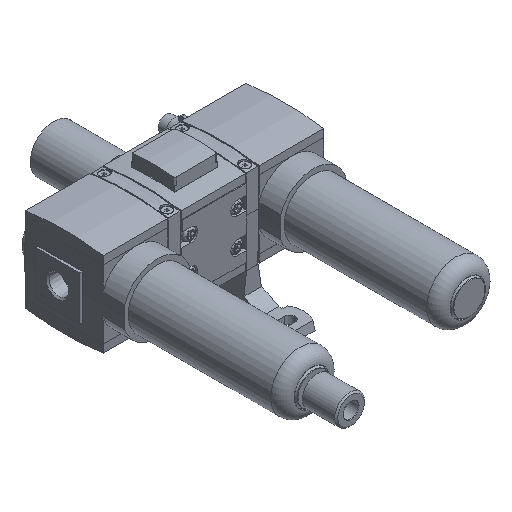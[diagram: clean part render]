
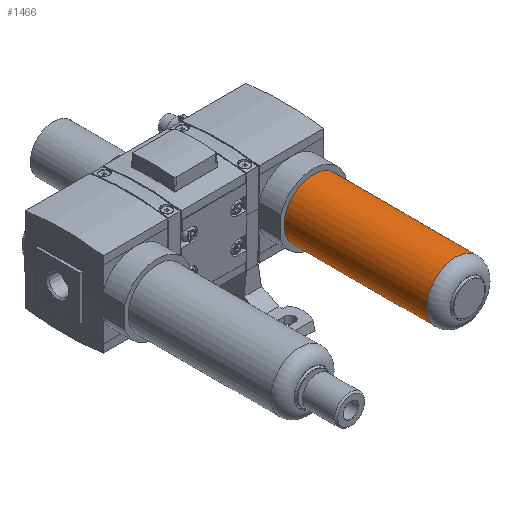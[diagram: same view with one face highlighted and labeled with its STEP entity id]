
A CAD part, isometric view. The second image highlights one B-rep face of the part: STEP entity #1466.
In plain terms, the highlighted cylindrical face has radius 18.75 mm (diameter 37.5 mm), a full revolution.
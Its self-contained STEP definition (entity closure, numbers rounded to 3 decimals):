
#1466 = ADVANCED_FACE( '', ( #3192, #3193 ), #3194, .T. );
#3192 = FACE_OUTER_BOUND( '', #5361, .T. );
#3193 = FACE_OUTER_BOUND( '', #5362, .T. );
#3194 = CYLINDRICAL_SURFACE( '', #5363, 18.75 );
#5361 = EDGE_LOOP( '', ( #8788 ) );
#5362 = EDGE_LOOP( '', ( #8789 ) );
#5363 = AXIS2_PLACEMENT_3D( '', #8790, #8791, #8792 );
#8788 = ORIENTED_EDGE( '', *, *, #13487, .F. );
#8789 = ORIENTED_EDGE( '', *, *, #13488, .T. );
#8790 = CARTESIAN_POINT( '', ( 0., -91.5, 0. ) );
#8791 = DIRECTION( '', ( 0., 1., 0. ) );
#8792 = DIRECTION( '', ( 0., 0., -1. ) );
#13487 = EDGE_CURVE( '', #16352, #16352, #16353, .T. );
#13488 = EDGE_CURVE( '', #16354, #16354, #16355, .T. );
#16352 = VERTEX_POINT( '', #20683 );
#16353 = CIRCLE( '', #20684, 18.75 );
#16354 = VERTEX_POINT( '', #20685 );
#16355 = CIRCLE( '', #20686, 18.75 );
#20683 = CARTESIAN_POINT( '', ( 0., -91.5, -18.75 ) );
#20684 = AXIS2_PLACEMENT_3D( '', #23887, #23888, #23889 );
#20685 = CARTESIAN_POINT( '', ( 0., 0., -18.75 ) );
#20686 = AXIS2_PLACEMENT_3D( '', #23890, #23891, #23892 );
#23887 = CARTESIAN_POINT( '', ( 0., -91.5, 0. ) );
#23888 = DIRECTION( '', ( 0., -1., 0. ) );
#23889 = DIRECTION( '', ( 0., 0., -1. ) );
#23890 = CARTESIAN_POINT( '', ( 0., 0., 0. ) );
#23891 = DIRECTION( '', ( 0., -1., 0. ) );
#23892 = DIRECTION( '', ( 0., 0., -1. ) );
